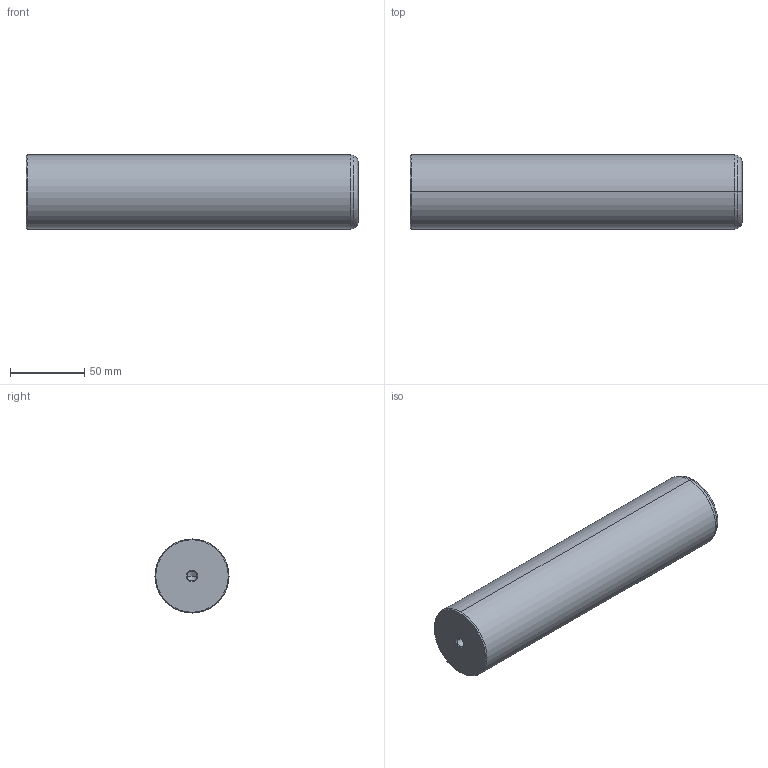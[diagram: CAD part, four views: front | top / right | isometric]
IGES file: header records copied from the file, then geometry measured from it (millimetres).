
Start section: START RECORD GO HERE.
Global section: file name: 720-50x224.igs; native system: DASSAULT SYSTEMES CATIA V5 R20 - www.3ds.com; preprocessor: CATIA Version 5 Release 20 ; author: Utente; organization: NB04-ASUS; date: 20201230.224301; units: millimetre
Bounding box: 224 x 50 x 50 mm (x, y, z)
Surface area: 39705.5 mm2 (no closed solid volume)
Topology: 0 solids, 0 shells, 22 faces, 108 edges, 104 vertices
Faces by surface type: revolution 20, plane 2
